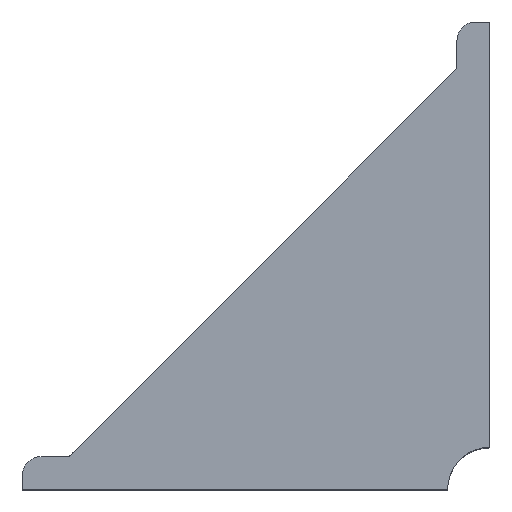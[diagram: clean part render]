
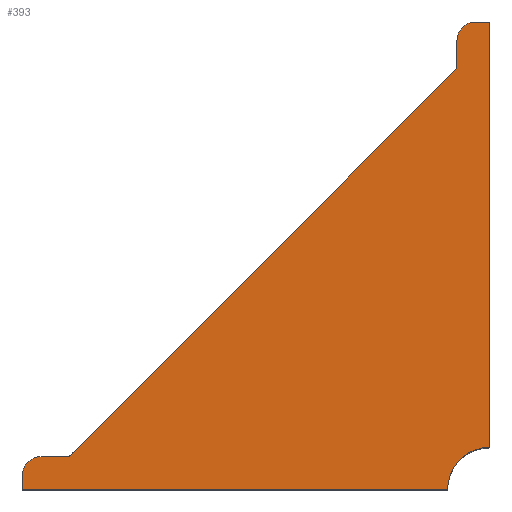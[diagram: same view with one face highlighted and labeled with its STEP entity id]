
A CAD part, top view. The second image highlights one B-rep face of the part: STEP entity #393.
In plain terms, the highlighted planar face has unit normal (0, 0, 1).
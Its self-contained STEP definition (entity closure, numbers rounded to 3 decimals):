
#22 = CIRCLE ( 'NONE', #1879, 9. ) ;
#31 = ORIENTED_EDGE ( 'NONE', *, *, #2166, .T. ) ;
#38 = EDGE_CURVE ( 'NONE', #2170, #1741, #107, .T. ) ;
#42 = EDGE_CURVE ( 'NONE', #1821, #1462, #1985, .T. ) ;
#92 = EDGE_CURVE ( 'NONE', #1688, #1587, #1677, .T. ) ;
#94 = CARTESIAN_POINT ( 'NONE',  ( -27.497, 124.021, 75. ) ) ;
#103 = CARTESIAN_POINT ( 'NONE',  ( -31.497, 114.021, 75. ) ) ;
#107 = CIRCLE ( 'NONE', #1508, 4. ) ;
#114 = DIRECTION ( 'NONE',  ( 0., 0., -1. ) ) ;
#147 = CARTESIAN_POINT ( 'NONE',  ( -31.497, 24.021, 75. ) ) ;
#165 = ORIENTED_EDGE ( 'NONE', *, *, #219, .T. ) ;
#170 = LINE ( 'NONE', #103, #1281 ) ;
#188 = ORIENTED_EDGE ( 'NONE', *, *, #751, .F. ) ;
#196 = ORIENTED_EDGE ( 'NONE', *, *, #42, .F. ) ;
#219 = EDGE_CURVE ( 'NONE', #1112, #1688, #2042, .T. ) ;
#313 = VERTEX_POINT ( 'NONE', #2109 ) ;
#368 = CARTESIAN_POINT ( 'NONE',  ( -24.497, 24.021, 75. ) ) ;
#393 = ADVANCED_FACE ( 'NONE', ( #924 ), #2098, .F. ) ;
#399 = CARTESIAN_POINT ( 'NONE',  ( -24.497, 124.021, 75. ) ) ;
#447 = DIRECTION ( 'NONE',  ( -1., 0., 0. ) ) ;
#472 = DIRECTION ( 'NONE',  ( 0., 0., 1. ) ) ;
#476 = CARTESIAN_POINT ( 'NONE',  ( -24.497, 33.021, 75. ) ) ;
#495 = DIRECTION ( 'NONE',  ( -1., 0., 0. ) ) ;
#579 = LINE ( 'NONE', #922, #1119 ) ;
#586 = DIRECTION ( 'NONE',  ( 1., 0., 0. ) ) ;
#592 = CARTESIAN_POINT ( 'NONE',  ( 0., 0., 75. ) ) ;
#599 = DIRECTION ( 'NONE',  ( 0., 1., 0. ) ) ;
#608 = CARTESIAN_POINT ( 'NONE',  ( -120.497, 31.021, 75. ) ) ;
#645 = CARTESIAN_POINT ( 'NONE',  ( -24.497, 124.021, 75. ) ) ;
#735 = VECTOR ( 'NONE', #1346, 1000. ) ;
#751 = EDGE_CURVE ( 'NONE', #1462, #1741, #579, .T. ) ;
#777 = LINE ( 'NONE', #147, #1735 ) ;
#796 = DIRECTION ( 'NONE',  ( -0.707, -0.707, 0. ) ) ;
#806 = VERTEX_POINT ( 'NONE', #966 ) ;
#830 = VECTOR ( 'NONE', #1517, 1000. ) ;
#848 = ORIENTED_EDGE ( 'NONE', *, *, #1751, .T. ) ;
#861 = ORIENTED_EDGE ( 'NONE', *, *, #1380, .T. ) ;
#922 = CARTESIAN_POINT ( 'NONE',  ( -124.497, 24.021, 75. ) ) ;
#924 = FACE_OUTER_BOUND ( 'NONE', #1502, .T. ) ;
#955 = DIRECTION ( 'NONE',  ( -1., 0., 0. ) ) ;
#966 = CARTESIAN_POINT ( 'NONE',  ( -31.497, 114.021, 75. ) ) ;
#976 = CARTESIAN_POINT ( 'NONE',  ( -124.497, 24.021, 75. ) ) ;
#1073 = CARTESIAN_POINT ( 'NONE',  ( -124.497, 31.021, 75. ) ) ;
#1104 = CARTESIAN_POINT ( 'NONE',  ( -24.497, 24.021, 75. ) ) ;
#1112 = VERTEX_POINT ( 'NONE', #645 ) ;
#1119 = VECTOR ( 'NONE', #599, 1000. ) ;
#1158 = DIRECTION ( 'NONE',  ( 0., -1., 0. ) ) ;
#1181 = ORIENTED_EDGE ( 'NONE', *, *, #1482, .F. ) ;
#1281 = VECTOR ( 'NONE', #796, 1000. ) ;
#1309 = ORIENTED_EDGE ( 'NONE', *, *, #38, .T. ) ;
#1311 = DIRECTION ( 'NONE',  ( -1., 0., 0. ) ) ;
#1314 = ORIENTED_EDGE ( 'NONE', *, *, #92, .T. ) ;
#1346 = DIRECTION ( 'NONE',  ( -1., 0., 0. ) ) ;
#1380 = EDGE_CURVE ( 'NONE', #1587, #806, #777, .T. ) ;
#1385 = DIRECTION ( 'NONE',  ( -1., 0., 0. ) ) ;
#1428 = DIRECTION ( 'NONE',  ( 0., 0., 1. ) ) ;
#1462 = VERTEX_POINT ( 'NONE', #1991 ) ;
#1482 = EDGE_CURVE ( 'NONE', #1112, #1834, #2032, .T. ) ;
#1489 = CARTESIAN_POINT ( 'NONE',  ( -27.497, 120.021, 75. ) ) ;
#1502 = EDGE_LOOP ( 'NONE', ( #31, #1309, #188, #196, #1515, #1181, #165, #1314, #861, #848 ) ) ;
#1508 = AXIS2_PLACEMENT_3D ( 'NONE', #1973, #472, #447 ) ;
#1515 = ORIENTED_EDGE ( 'NONE', *, *, #2036, .F. ) ;
#1517 = DIRECTION ( 'NONE',  ( 0., -1., 0. ) ) ;
#1586 = LINE ( 'NONE', #1073, #1809 ) ;
#1587 = VERTEX_POINT ( 'NONE', #2000 ) ;
#1604 = CARTESIAN_POINT ( 'NONE',  ( -124.497, 27.021, 75. ) ) ;
#1677 = CIRCLE ( 'NONE', #1960, 4. ) ;
#1678 = DIRECTION ( 'NONE',  ( 0., 0., 1. ) ) ;
#1688 = VERTEX_POINT ( 'NONE', #94 ) ;
#1735 = VECTOR ( 'NONE', #1158, 1000. ) ;
#1741 = VERTEX_POINT ( 'NONE', #1604 ) ;
#1751 = EDGE_CURVE ( 'NONE', #806, #313, #170, .T. ) ;
#1809 = VECTOR ( 'NONE', #955, 1000. ) ;
#1821 = VERTEX_POINT ( 'NONE', #1965 ) ;
#1834 = VERTEX_POINT ( 'NONE', #476 ) ;
#1879 = AXIS2_PLACEMENT_3D ( 'NONE', #1104, #1428, #586 ) ;
#1925 = AXIS2_PLACEMENT_3D ( 'NONE', #592, #114, #1311 ) ;
#1960 = AXIS2_PLACEMENT_3D ( 'NONE', #1489, #1678, #495 ) ;
#1965 = CARTESIAN_POINT ( 'NONE',  ( -33.497, 24.021, 75. ) ) ;
#1973 = CARTESIAN_POINT ( 'NONE',  ( -120.497, 27.021, 75. ) ) ;
#1985 = LINE ( 'NONE', #976, #735 ) ;
#1991 = CARTESIAN_POINT ( 'NONE',  ( -124.497, 24.021, 75. ) ) ;
#2000 = CARTESIAN_POINT ( 'NONE',  ( -31.497, 120.021, 75. ) ) ;
#2032 = LINE ( 'NONE', #368, #830 ) ;
#2036 = EDGE_CURVE ( 'NONE', #1834, #1821, #22, .T. ) ;
#2042 = LINE ( 'NONE', #399, #2177 ) ;
#2098 = PLANE ( 'NONE',  #1925 ) ;
#2109 = CARTESIAN_POINT ( 'NONE',  ( -114.497, 31.021, 75. ) ) ;
#2166 = EDGE_CURVE ( 'NONE', #313, #2170, #1586, .T. ) ;
#2170 = VERTEX_POINT ( 'NONE', #608 ) ;
#2177 = VECTOR ( 'NONE', #1385, 1000. ) ;
